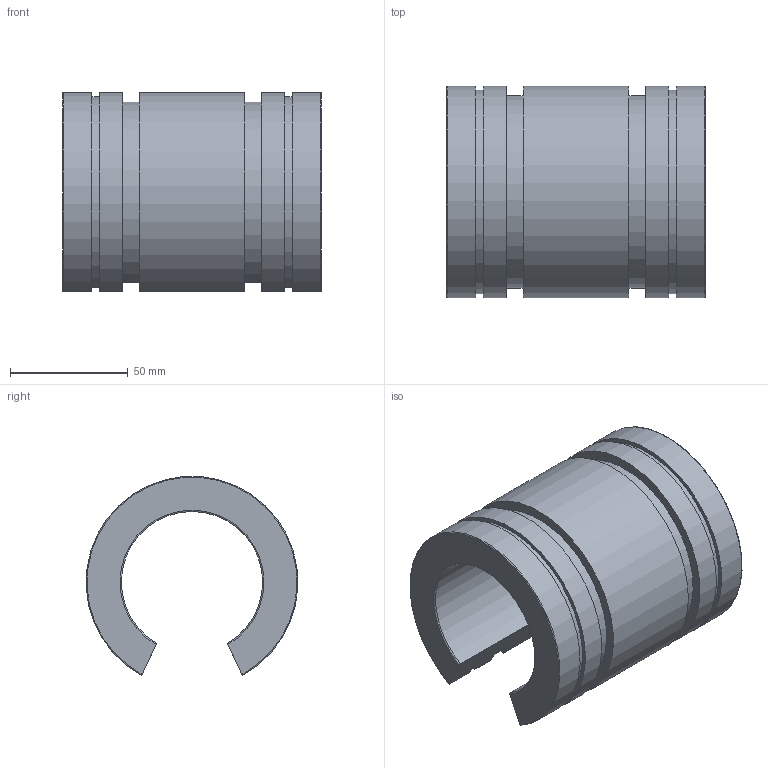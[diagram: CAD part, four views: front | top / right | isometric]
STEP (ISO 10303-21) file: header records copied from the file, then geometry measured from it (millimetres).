
FILE_DESCRIPTION(('STEP AP203'),'1');
FILE_NAME('//192.168.1.1/share/s-4 技術開発/s-4-4_CAD/s-4-4-3_見直し済み/PBC LINEAR修正済み/FJN/FJN_TOP/FJN60.step','2022-03-24T07:41:57',(' '),(' '),'Spatial InterOp 3D',' ',' ');
FILE_SCHEMA(('CONFIG_CONTROL_DESIGN'));
Length unit declared in the file: millimetre
Products named in the file (1): 1
Bounding box: 110 x 89.88 x 84.45 mm (x, y, z)
Volume: 310330.3 mm3; surface area: 57443.9 mm2
Topology: 1 solids, 1 shells, 26 faces, 72 edges, 48 vertices
Faces by surface type: plane 12, cylinder 10, torus 4
Entity records: 908 total; most frequent: CARTESIAN_POINT 187, ORIENTED_EDGE 144, DIRECTION 142, EDGE_CURVE 72, AXIS2_PLACEMENT_3D 51, VERTEX_POINT 48, LINE 40, VECTOR 40
